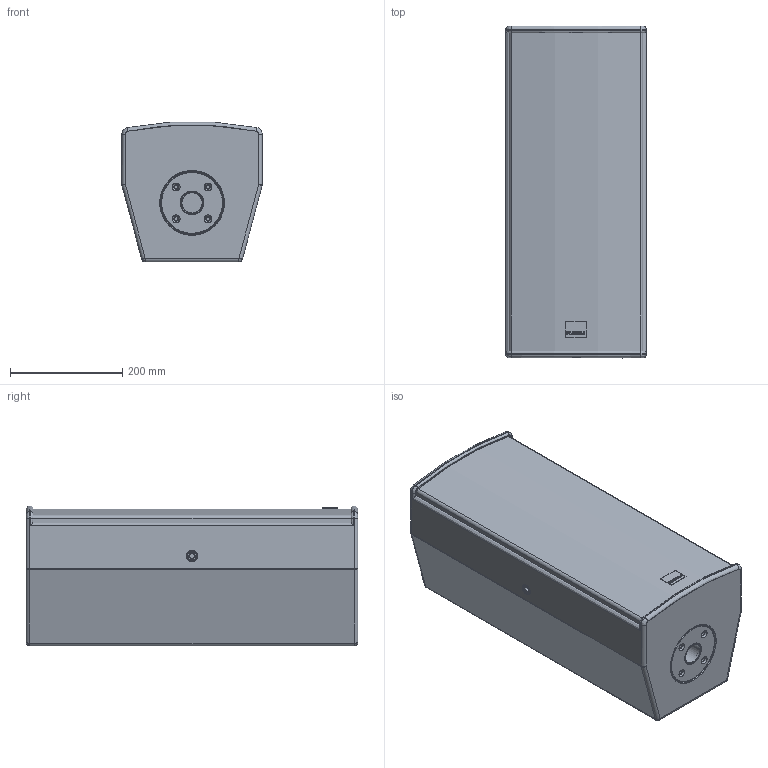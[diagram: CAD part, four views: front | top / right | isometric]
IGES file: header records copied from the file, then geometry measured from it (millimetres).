
Start section: SolidWorks IGES file using analytic representation for surfaces
Global section: file name: C:\Dokumente und Einstellungen\PC_Fabian\Desktop\3d_Dateien_Homepage\A-Serie\SEEBURG_A3.IGS; native system: SolidWorks 2009; preprocessor: SolidWorks 2009; author: PC_Fabian; date: 120927.153319; units: millimetre
Bounding box: 250.21 x 590 x 248.75 mm (x, y, z)
Surface area: 1554214.5 mm2 (no closed solid volume)
Topology: 0 solids, 0 shells, 407 faces, 4851 edges, 4849 vertices
Faces by surface type: revolution 220, bspline 187
